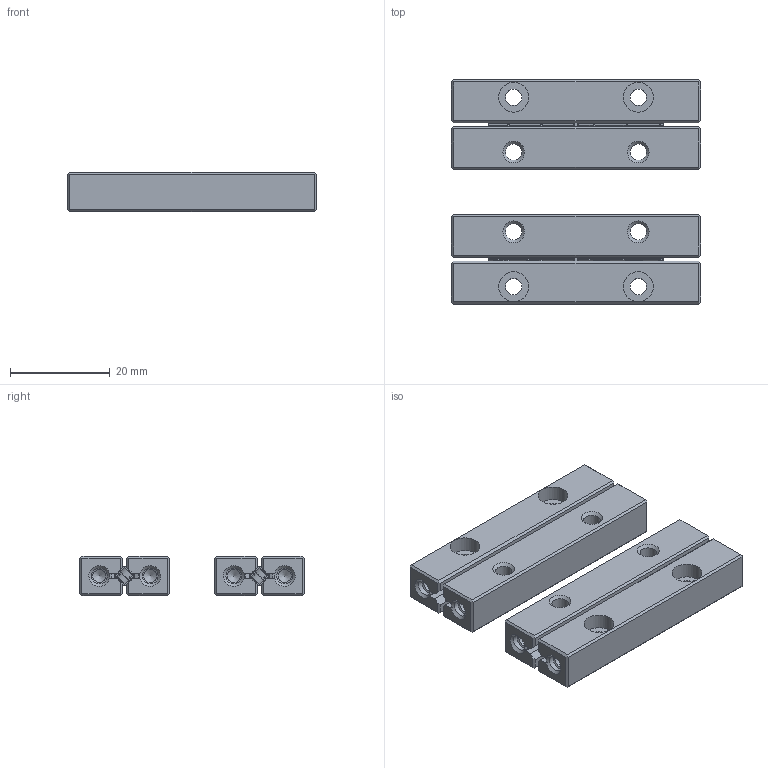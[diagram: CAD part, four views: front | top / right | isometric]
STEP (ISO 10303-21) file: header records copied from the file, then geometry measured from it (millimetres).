
FILE_DESCRIPTION(/* description */ (''),/* implementation_level */ '2;1');
FILE_NAME(/* name */ '084838_A_1-Set RSDE-3050x8KRE-ACC.stp',/* time_stamp */ '2020-07-03T08:50:57+02:00',/* author */ (''),/* organization */ (''),/* preprocessor_version */ 'ST-DEVELOPER v16.7',/* originating_system */ 'SIEMENS PLM Software NX 12.0',/* authorisation */ '');
FILE_SCHEMA (('AUTOMOTIVE_DESIGN { 1 0 10303 214 3 1 1 1 }'));
Length unit declared in the file: millimetre
Products named in the file (8): 029043_A_7-Gear R_RE 3-SS-ACC m-0.3 z-15; ISO 2338-1m6x3-A1_A_6-Dowel Pin ISO 2338-1m6x3-A1; 019785_A_6-Roller Ø3x2.2; 028992_A_4-Body Cage R3x8KRE-ACC; 044184_A_5-Rack R3-ACC L_30; 005068_A_2-RSDE-3050-ACC; 029049_A_8-Rollercage R3x8KRE-ACC Assy; 084838_A_1-Set RSDE-3050x8KRE-ACC
Assembly tree (22 placements, depth 3):
  084838_A_1-Set RSDE-3050x8KRE-ACC
    005068_A_2-RSDE-3050-ACC  x4
    029049_A_8-Rollercage R3x8KRE-ACC Assy  x2
      028992_A_4-Body Cage R3x8KRE-ACC
      019785_A_6-Roller Ø3x2.2
      ISO 2338-1m6x3-A1_A_6-Dowel Pin ISO 2338-1m6x3-A1
      029043_A_7-Gear R_RE 3-SS-ACC m-0.3 z-15
    044184_A_5-Rack R3-ACC L_30  x4
Bounding box: 50 x 45 x 8 mm (x, y, z)
Volume: 11864.2 mm3; surface area: 11281.6 mm2
Topology: 32 solids, 32 shells, 1864 faces, 5330 edges, 3518 vertices
Faces by surface type: plane 1040, cylinder 536, torus 176, extrusion 72, cone 40
Full cylindrical faces by diameter (mm): 0.45 x80, 1 x8, 2 x16, 2.6 x8, 3 x16, 3.2 x8, 3.3 x8, 6 x8
Entity records: 18179 total; most frequent: CARTESIAN_POINT 3973, ORIENTED_EDGE 2934, DIRECTION 2862, EDGE_CURVE 1467, VERTEX_POINT 996, AXIS2_PLACEMENT_3D 968, VECTOR 926, LINE 893
